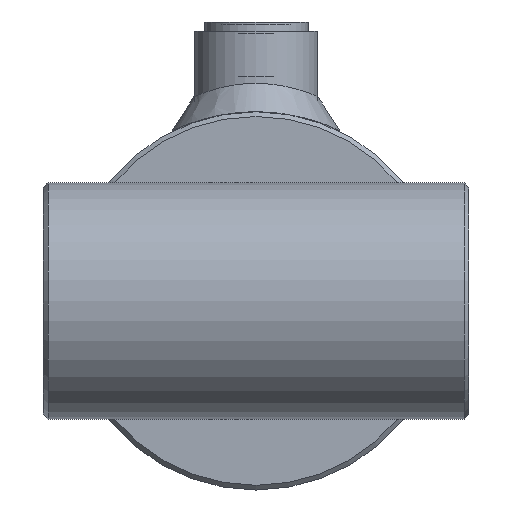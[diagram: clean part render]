
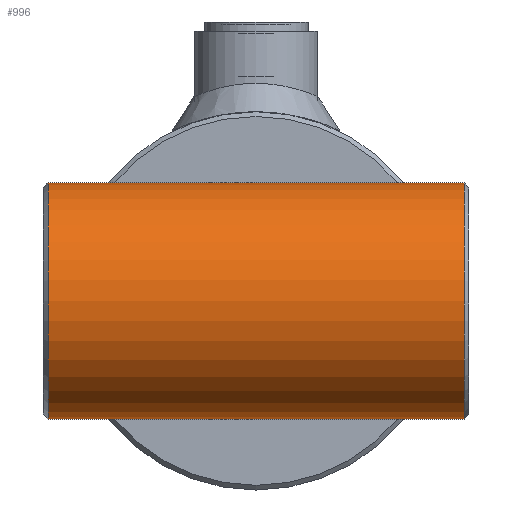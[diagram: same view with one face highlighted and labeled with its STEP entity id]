
A CAD part, left-side view. The second image highlights one B-rep face of the part: STEP entity #996.
In plain terms, the highlighted cylindrical face has radius 25 mm (diameter 50 mm), a full revolution.
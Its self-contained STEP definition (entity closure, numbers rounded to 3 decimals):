
#996 = ADVANCED_FACE( '', ( #1897, #1898 ), #1899, .T. );
#1897 = FACE_OUTER_BOUND( '', #5736, .T. );
#1898 = FACE_OUTER_BOUND( '', #5737, .T. );
#1899 = CYLINDRICAL_SURFACE( '', #5738, 25. );
#5736 = EDGE_LOOP( '', ( #10640 ) );
#5737 = EDGE_LOOP( '', ( #10641 ) );
#5738 = AXIS2_PLACEMENT_3D( '', #10642, #10643, #10644 );
#10640 = ORIENTED_EDGE( '', *, *, #11598, .T. );
#10641 = ORIENTED_EDGE( '', *, *, #11866, .T. );
#10642 = CARTESIAN_POINT( '', ( 0., -45., 0. ) );
#10643 = DIRECTION( '', ( 0., -1., 0. ) );
#10644 = DIRECTION( '', ( 0., 0., 1. ) );
#11598 = EDGE_CURVE( '', #12455, #12455, #12456, .F. );
#11866 = EDGE_CURVE( '', #12855, #12855, #12856, .T. );
#12455 = VERTEX_POINT( '', #13768 );
#12456 = CIRCLE( '', #13769, 25. );
#12855 = VERTEX_POINT( '', #14719 );
#12856 = CIRCLE( '', #14720, 25. );
#13768 = CARTESIAN_POINT( '', ( 0., 44., 25. ) );
#13769 = AXIS2_PLACEMENT_3D( '', #16429, #16430, #16431 );
#14719 = CARTESIAN_POINT( '', ( 0., -44., 25. ) );
#14720 = AXIS2_PLACEMENT_3D( '', #16687, #16688, #16689 );
#16429 = CARTESIAN_POINT( '', ( 0., 44., 0. ) );
#16430 = DIRECTION( '', ( 0., 1., 0. ) );
#16431 = DIRECTION( '', ( 0., 0., 1. ) );
#16687 = CARTESIAN_POINT( '', ( 0., -44., 0. ) );
#16688 = DIRECTION( '', ( 0., 1., 0. ) );
#16689 = DIRECTION( '', ( 0., 0., 1. ) );
